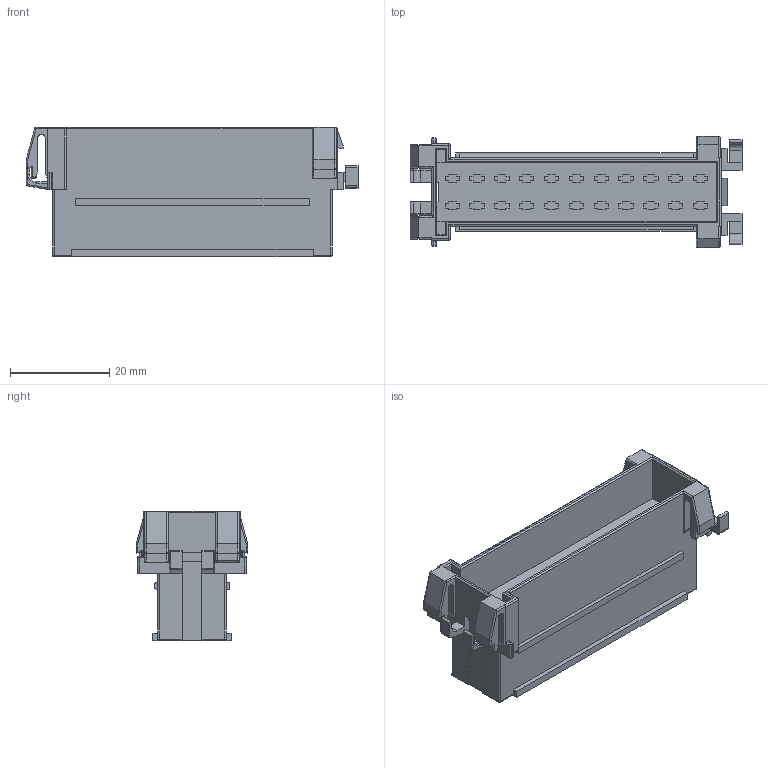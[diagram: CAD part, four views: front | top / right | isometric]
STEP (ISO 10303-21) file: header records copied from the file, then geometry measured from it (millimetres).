
FILE_DESCRIPTION((''),'2;1');
FILE_NAME('C-929505-7','2009-03-12T',('workeradm'),('Tyco Electronics Corporation'),'PRO/ENGINEER BY PARAMETRIC TECHNOLOGY CORPORATION, 2007390','PRO/ENGINEER BY PARAMETRIC TECHNOLOGY CORPORATION, 2007390','');
FILE_SCHEMA(('AUTOMOTIVE_DESIGN { 1 0 10303 214 1 1 1 1 }'));
Length unit declared in the file: millimetre
Products named in the file (1): C-929505-7
Bounding box: 66.85 x 22.4 x 26 mm (x, y, z)
Volume: 10377.1 mm3; surface area: 12580.8 mm2
Topology: 1 solids, 1 shells, 1034 faces, 2792 edges, 1828 vertices
Faces by surface type: plane 913, cylinder 107, sphere 8, bspline 4, torus 2
Entity records: 32211 total; most frequent: CARTESIAN_POINT 6189, ORIENTED_EDGE 5584, DIRECTION 4892, EDGE_CURVE 2792, VECTOR 2620, LINE 2620, VERTEX_POINT 1828, AXIS2_PLACEMENT_3D 1136
